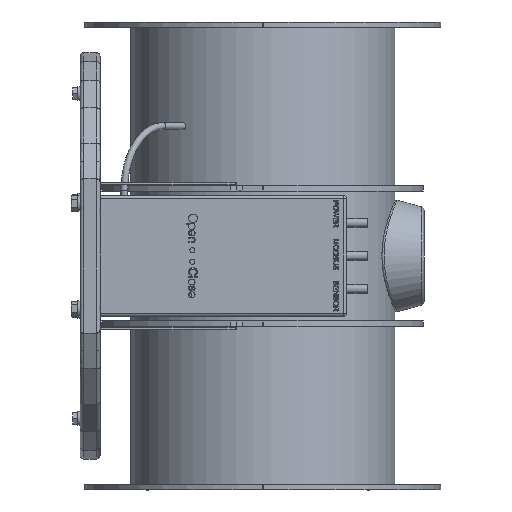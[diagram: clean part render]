
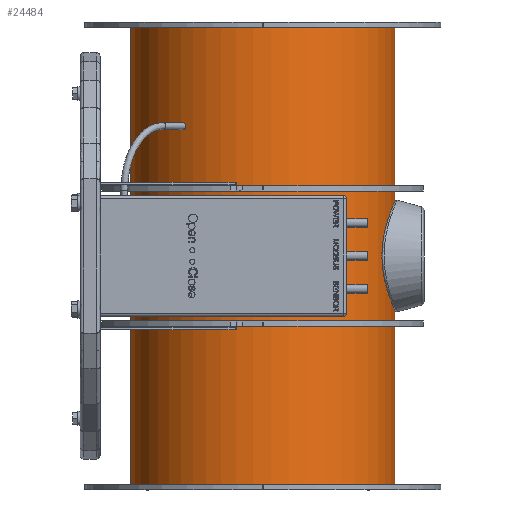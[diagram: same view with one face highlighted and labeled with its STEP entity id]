
A CAD part, front view. The second image highlights one B-rep face of the part: STEP entity #24484.
In plain terms, the highlighted free-form (B-spline) face has degree [2, 1] with [7, 2] control points.
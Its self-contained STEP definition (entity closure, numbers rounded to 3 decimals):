
#24396=CARTESIAN_POINT('',(76.25,0.,-133.));
#24397=VERTEX_POINT('',#24396);
#24398=CARTESIAN_POINT('',(76.25,0.,-133.));
#24399=CARTESIAN_POINT('',(76.25,132.069,-133.));
#24400=CARTESIAN_POINT('',(-38.125,66.034,-133.));
#24401=CARTESIAN_POINT('',(-152.5,0.,-133.));
#24402=CARTESIAN_POINT('',(-38.125,-66.034,-133.));
#24403=CARTESIAN_POINT('',(76.25,-132.069,-133.));
#24404=CARTESIAN_POINT('',(76.25,0.,-133.));
#24405=(BOUNDED_CURVE()B_SPLINE_CURVE(2,(#24398,#24399,#24400,#24401,#24402,#24403,#24404),.CIRCULAR_ARC.,.T.,.U.)B_SPLINE_CURVE_WITH_KNOTS((3,2,2,3),(0.,0.333,0.667,1.),.UNSPECIFIED.)CURVE()GEOMETRIC_REPRESENTATION_ITEM()RATIONAL_B_SPLINE_CURVE((1.,0.5,1.,0.5,1.,0.5,1.))REPRESENTATION_ITEM(''));
#24406=EDGE_CURVE('',#24397,#24397,#24405,.T.);
#24430=CARTESIAN_POINT('',(76.25,0.,133.));
#24431=VERTEX_POINT('',#24430);
#24432=CARTESIAN_POINT('',(76.25,0.,133.));
#24433=CARTESIAN_POINT('',(76.25,132.069,133.));
#24434=CARTESIAN_POINT('',(-38.125,66.034,133.));
#24435=CARTESIAN_POINT('',(-152.5,0.,133.));
#24436=CARTESIAN_POINT('',(-38.125,-66.034,133.));
#24437=CARTESIAN_POINT('',(76.25,-132.069,133.));
#24438=CARTESIAN_POINT('',(76.25,0.,133.));
#24439=(BOUNDED_CURVE()B_SPLINE_CURVE(2,(#24432,#24433,#24434,#24435,#24436,#24437,#24438),.CIRCULAR_ARC.,.T.,.U.)B_SPLINE_CURVE_WITH_KNOTS((3,2,2,3),(0.,0.333,0.667,1.),.UNSPECIFIED.)CURVE()GEOMETRIC_REPRESENTATION_ITEM()RATIONAL_B_SPLINE_CURVE((1.,0.5,1.,0.5,1.,0.5,1.))REPRESENTATION_ITEM(''));
#24440=EDGE_CURVE('',#24431,#24431,#24439,.T.);
#24459=CARTESIAN_POINT('',(76.25,0.,-133.));
#24460=CARTESIAN_POINT('',(76.25,0.,133.));
#24461=CARTESIAN_POINT('',(76.25,132.069,-133.));
#24462=CARTESIAN_POINT('',(76.25,132.069,133.));
#24463=CARTESIAN_POINT('',(-38.125,66.034,-133.));
#24464=CARTESIAN_POINT('',(-38.125,66.034,133.));
#24465=CARTESIAN_POINT('',(-152.5,0.,-133.));
#24466=CARTESIAN_POINT('',(-152.5,0.,133.));
#24467=CARTESIAN_POINT('',(-38.125,-66.034,-133.));
#24468=CARTESIAN_POINT('',(-38.125,-66.034,133.));
#24469=CARTESIAN_POINT('',(76.25,-132.069,-133.));
#24470=CARTESIAN_POINT('',(76.25,-132.069,133.));
#24471=CARTESIAN_POINT('',(76.25,0.,-133.));
#24472=CARTESIAN_POINT('',(76.25,0.,133.));
#24473=(BOUNDED_SURFACE()B_SPLINE_SURFACE(2,1,((#24459,#24460),(#24461,#24462),(#24463,#24464),(#24465,#24466),(#24467,#24468),(#24469,#24470),(#24471,#24472)),.CYLINDRICAL_SURF.,.T.,.F.,.U.)B_SPLINE_SURFACE_WITH_KNOTS((3,2,2,3),(2,2),(0.,0.333,0.667,1.),(0.,1.),.UNSPECIFIED.)GEOMETRIC_REPRESENTATION_ITEM()RATIONAL_B_SPLINE_SURFACE(((1.,1.),(0.5,0.5),(1.,1.),(0.5,0.5),(1.,1.),(0.5,0.5),(1.,1.)))REPRESENTATION_ITEM('')SURFACE());
#24474=ORIENTED_EDGE('',*,*,#24406,.T.);
#24475=CARTESIAN_POINT('',(76.25,0.,-133.));
#24476=CARTESIAN_POINT('',(76.25,0.,133.));
#24477=B_SPLINE_CURVE_WITH_KNOTS('',1,(#24475,#24476),.POLYLINE_FORM.,.F.,.U.,(2,2),(0.,1.),.UNSPECIFIED.);
#24478=EDGE_CURVE('',#24397,#24431,#24477,.T.);
#24479=ORIENTED_EDGE('',*,*,#24478,.T.);
#24480=ORIENTED_EDGE('',*,*,#24440,.F.);
#24481=ORIENTED_EDGE('',*,*,#24478,.F.);
#24482=EDGE_LOOP('',(#24474,#24479,#24480,#24481));
#24483=FACE_OUTER_BOUND('',#24482,.T.);
#24484=ADVANCED_FACE('',(#24483),#24473,.T.);
